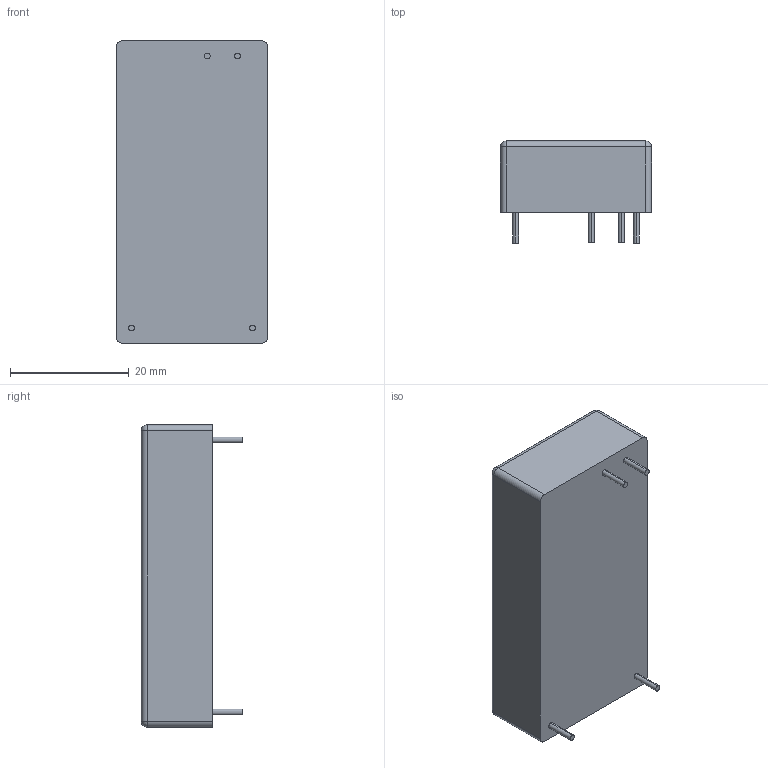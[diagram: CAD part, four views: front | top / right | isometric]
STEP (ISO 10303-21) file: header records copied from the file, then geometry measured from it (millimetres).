
FILE_DESCRIPTION (( 'STEP AP203' ), '1' );
FILE_NAME ('TRI 15 Single Output.STEP', '2020-11-20T01:10:47', ( '' ), ( '' ), 'SwSTEP 2.0', 'SolidWorks 2020', '' );
FILE_SCHEMA (( 'CONFIG_CONTROL_DESIGN' ));
Length unit declared in the file: millimetre
Products named in the file (1): TRI 15 Single Output
Bounding box: 25.4 x 17.08 x 50.8 mm (x, y, z)
Volume: 15457.5 mm3; surface area: 4385.8 mm2
Topology: 1 solids, 1 shells, 30 faces, 64 edges, 36 vertices
Faces by surface type: cylinder 16, plane 10, sphere 4
Entity records: 857 total; most frequent: DIRECTION 154, CARTESIAN_POINT 127, ORIENTED_EDGE 120, AXIS2_PLACEMENT_3D 63, EDGE_CURVE 60, VERTEX_POINT 36, EDGE_LOOP 34, CIRCLE 32
